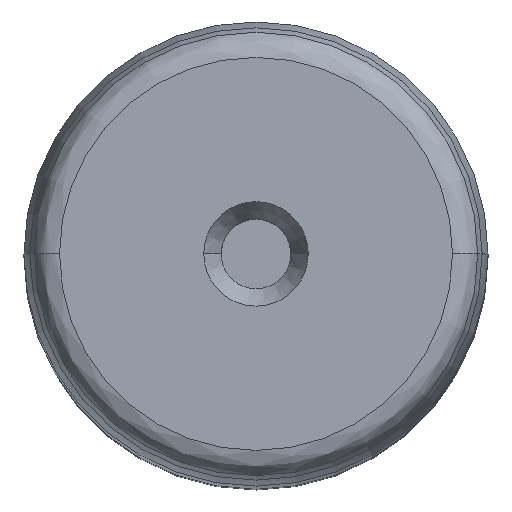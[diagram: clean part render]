
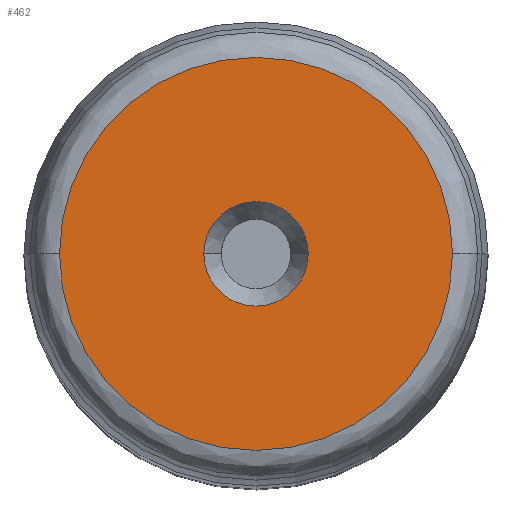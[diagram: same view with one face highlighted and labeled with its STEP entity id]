
A CAD part, top view. The second image highlights one B-rep face of the part: STEP entity #462.
In plain terms, the highlighted planar face has unit normal (0, 0, 1).
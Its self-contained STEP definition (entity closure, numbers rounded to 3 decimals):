
#97=VERTEX_POINT(' ',#98);
#98=CARTESIAN_POINT('',(-9.,0.,400.));
#99=VERTEX_POINT(' ',#100);
#100=CARTESIAN_POINT('',(9.,0.,400.));
#101=VERTEX_POINT(' ',#102);
#102=CARTESIAN_POINT('',(-33.868,0.,400.));
#103=VERTEX_POINT(' ',#104);
#104=CARTESIAN_POINT('',(33.868,0.,400.));
#180=CIRCLE('',#181,9.);
#181=AXIS2_PLACEMENT_3D('',#182,#183,#184);
#182=CARTESIAN_POINT('',(0.,0.,400.));
#183=DIRECTION('',(0.,0.,-1.));
#184=DIRECTION('',(0.,1.,0.));
#185=EDGE_CURVE(' ',#99,#97,#180,.T.);
#191=CIRCLE('',#192,9.);
#192=AXIS2_PLACEMENT_3D('',#193,#194,#195);
#193=CARTESIAN_POINT('',(0.,0.,400.));
#194=DIRECTION('',(0.,0.,-1.));
#195=DIRECTION('',(0.,-1.,0.));
#196=EDGE_CURVE(' ',#97,#99,#191,.T.);
#197=CIRCLE('',#198,33.868);
#198=AXIS2_PLACEMENT_3D('',#199,#200,#201);
#199=CARTESIAN_POINT('',(0.,0.,400.));
#200=DIRECTION('',(0.,0.,-1.));
#201=DIRECTION('',(0.,1.,0.));
#202=EDGE_CURVE(' ',#103,#101,#197,.T.);
#203=CIRCLE('',#204,33.868);
#204=AXIS2_PLACEMENT_3D('',#205,#206,#207);
#205=CARTESIAN_POINT('',(0.,0.,400.));
#206=DIRECTION('',(0.,0.,-1.));
#207=DIRECTION('',(0.,-1.,0.));
#208=EDGE_CURVE(' ',#101,#103,#203,.T.);
#449=ORIENTED_EDGE('',*,*,#202,.F.);
#450=ORIENTED_EDGE('',*,*,#208,.F.);
#451=EDGE_LOOP('',(#449,#450));
#452=FACE_OUTER_BOUND('',#451,.T.);
#453=ORIENTED_EDGE('',*,*,#196,.T.);
#454=ORIENTED_EDGE('',*,*,#185,.T.);
#455=EDGE_LOOP('',(#453,#454));
#456=FACE_BOUND('',#455,.T.);
#457=PLANE('',#458);
#458=AXIS2_PLACEMENT_3D('',#459,#460,#461);
#459=CARTESIAN_POINT('',(0.,0.,400.));
#460=DIRECTION('',(0.,0.,1.));
#461=DIRECTION('',(0.,1.,0.));
#462=ADVANCED_FACE('',(#452,#456),#457,.T.);
